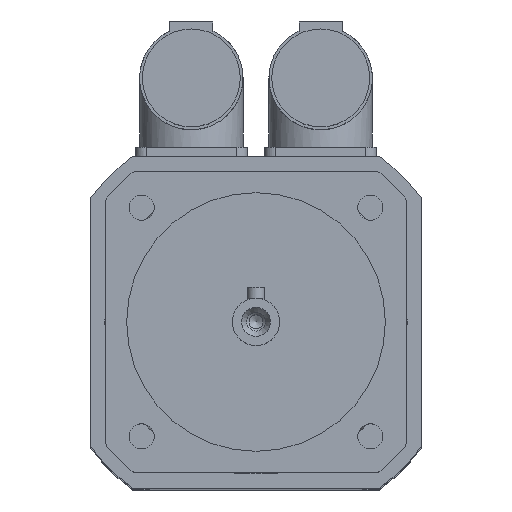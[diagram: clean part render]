
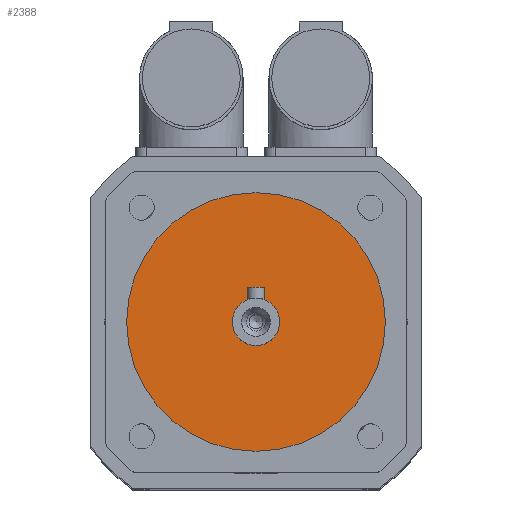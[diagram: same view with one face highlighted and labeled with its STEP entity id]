
A CAD part, top view. The second image highlights one B-rep face of the part: STEP entity #2388.
In plain terms, the highlighted planar face has unit normal (0, 0, 1).
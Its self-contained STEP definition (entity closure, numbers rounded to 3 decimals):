
#484=PLANE('',#2572);
#601=FACE_BOUND('',#819,.T.);
#665=FACE_OUTER_BOUND('',#818,.T.);
#818=EDGE_LOOP('',(#1867));
#819=EDGE_LOOP('',(#1868));
#965=CIRCLE('',#2571,5.5);
#966=CIRCLE('',#2573,30.);
#1130=VERTEX_POINT('',#3794);
#1131=VERTEX_POINT('',#3797);
#1405=EDGE_CURVE('',#1130,#1130,#965,.T.);
#1406=EDGE_CURVE('',#1131,#1131,#966,.T.);
#1867=ORIENTED_EDGE('',*,*,#1406,.F.);
#1868=ORIENTED_EDGE('',*,*,#1405,.T.);
#2388=ADVANCED_FACE('',(#665,#601),#484,.T.);
#2571=AXIS2_PLACEMENT_3D('',#3795,#2996,#2997);
#2572=AXIS2_PLACEMENT_3D('',#3796,#2998,#2999);
#2573=AXIS2_PLACEMENT_3D('',#3798,#3000,#3001);
#2996=DIRECTION('center_axis',(0.,0.,-1.));
#2997=DIRECTION('ref_axis',(1.,0.,0.));
#2998=DIRECTION('center_axis',(0.,0.,1.));
#2999=DIRECTION('ref_axis',(1.,0.,0.));
#3000=DIRECTION('center_axis',(0.,0.,-1.));
#3001=DIRECTION('ref_axis',(1.,0.,0.));
#3794=CARTESIAN_POINT('',(0.,5.5,258.));
#3795=CARTESIAN_POINT('Origin',(0.,0.,258.));
#3796=CARTESIAN_POINT('Origin',(0.,30.,258.));
#3797=CARTESIAN_POINT('',(0.,30.,258.));
#3798=CARTESIAN_POINT('Origin',(0.,0.,258.));
